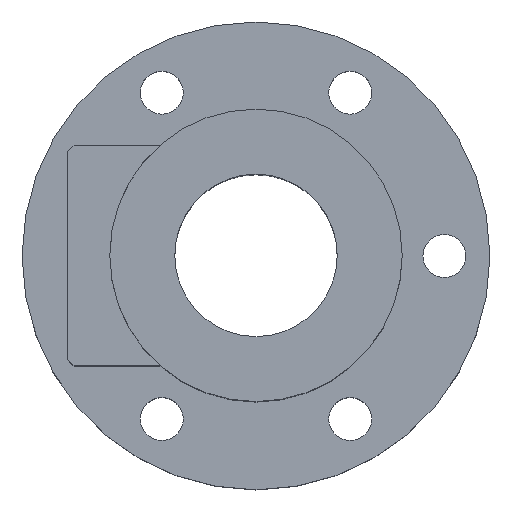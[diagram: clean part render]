
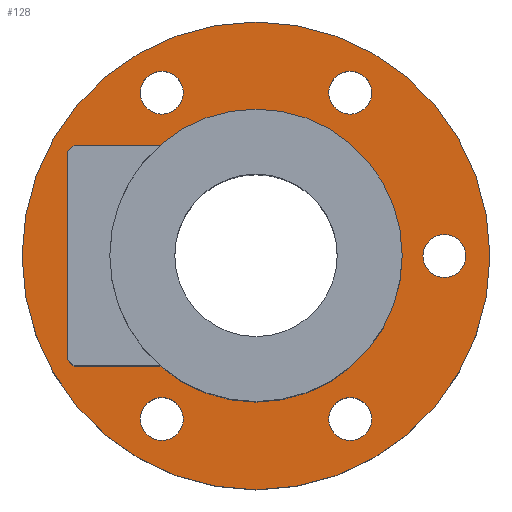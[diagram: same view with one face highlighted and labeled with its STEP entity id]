
A CAD part, top view. The second image highlights one B-rep face of the part: STEP entity #128.
In plain terms, the highlighted planar face has unit normal (0, 0, 1).
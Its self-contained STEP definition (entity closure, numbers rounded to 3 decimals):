
#97=PLANE('',#515);
#112=FACE_OUTER_BOUND('',#251,.T.);
#128=ADVANCED_FACE('',(#203,#204,#205,#112,#206,#207,#208),#97,.T.);
#203=FACE_BOUND('',#248,.T.);
#204=FACE_BOUND('',#249,.T.);
#205=FACE_BOUND('',#250,.T.);
#206=FACE_BOUND('',#252,.T.);
#207=FACE_BOUND('',#253,.T.);
#208=FACE_BOUND('',#254,.T.);
#248=EDGE_LOOP('',(#311));
#249=EDGE_LOOP('',(#312));
#250=EDGE_LOOP('',(#313));
#251=EDGE_LOOP('',(#314));
#252=EDGE_LOOP('',(#315));
#253=EDGE_LOOP('',(#316));
#254=EDGE_LOOP('',(#317));
#311=ORIENTED_EDGE('',*,*,#437,.F.);
#312=ORIENTED_EDGE('',*,*,#438,.F.);
#313=ORIENTED_EDGE('',*,*,#432,.F.);
#314=ORIENTED_EDGE('',*,*,#439,.T.);
#315=ORIENTED_EDGE('',*,*,#440,.F.);
#316=ORIENTED_EDGE('',*,*,#441,.F.);
#317=ORIENTED_EDGE('',*,*,#442,.F.);
#394=VERTEX_POINT('',#694);
#399=VERTEX_POINT('',#705);
#400=VERTEX_POINT('',#707);
#401=VERTEX_POINT('',#709);
#402=VERTEX_POINT('',#711);
#403=VERTEX_POINT('',#713);
#404=VERTEX_POINT('',#715);
#432=EDGE_CURVE('',#394,#394,#476,.T.);
#437=EDGE_CURVE('',#399,#399,#479,.T.);
#438=EDGE_CURVE('',#400,#400,#480,.T.);
#439=EDGE_CURVE('',#401,#401,#481,.T.);
#440=EDGE_CURVE('',#402,#402,#482,.T.);
#441=EDGE_CURVE('',#403,#403,#483,.T.);
#442=EDGE_CURVE('',#404,#404,#484,.T.);
#476=CIRCLE('',#505,22.5);
#479=CIRCLE('',#509,3.3);
#480=CIRCLE('',#510,3.3);
#481=CIRCLE('',#511,36.);
#482=CIRCLE('',#512,3.3);
#483=CIRCLE('',#513,3.3);
#484=CIRCLE('',#514,3.3);
#505=AXIS2_PLACEMENT_3D('',#693,#564,#565);
#509=AXIS2_PLACEMENT_3D('',#704,#574,#575);
#510=AXIS2_PLACEMENT_3D('',#706,#576,#577);
#511=AXIS2_PLACEMENT_3D('',#708,#578,#579);
#512=AXIS2_PLACEMENT_3D('',#710,#580,#581);
#513=AXIS2_PLACEMENT_3D('',#712,#582,#583);
#514=AXIS2_PLACEMENT_3D('',#714,#584,#585);
#515=AXIS2_PLACEMENT_3D('',#716,#586,#587);
#564=DIRECTION('',(0.,0.,1.));
#565=DIRECTION('',(1.,0.,0.));
#574=DIRECTION('',(0.,0.,1.));
#575=DIRECTION('',(-0.5,-0.866,0.));
#576=DIRECTION('',(0.,0.,1.));
#577=DIRECTION('',(0.5,0.866,0.));
#578=DIRECTION('',(0.,0.,1.));
#579=DIRECTION('',(1.,0.,0.));
#580=DIRECTION('',(0.,0.,1.));
#581=DIRECTION('',(1.,0.,0.));
#582=DIRECTION('',(0.,0.,1.));
#583=DIRECTION('',(-1.,0.,0.));
#584=DIRECTION('',(0.,0.,1.));
#585=DIRECTION('',(0.5,-0.866,0.));
#586=DIRECTION('',(0.,0.,1.));
#587=DIRECTION('',(1.,0.,0.));
#693=CARTESIAN_POINT('',(0.,0.,16.));
#694=CARTESIAN_POINT('',(22.5,0.,16.));
#704=CARTESIAN_POINT('',(14.5,-25.115,16.));
#705=CARTESIAN_POINT('',(12.85,-27.973,16.));
#706=CARTESIAN_POINT('',(-14.5,25.115,16.));
#707=CARTESIAN_POINT('',(-12.85,27.973,16.));
#708=CARTESIAN_POINT('',(0.,0.,16.));
#709=CARTESIAN_POINT('',(36.,0.,16.));
#710=CARTESIAN_POINT('',(14.5,25.115,16.));
#711=CARTESIAN_POINT('',(17.8,25.115,16.));
#712=CARTESIAN_POINT('',(-14.5,-25.115,16.));
#713=CARTESIAN_POINT('',(-17.8,-25.115,16.));
#714=CARTESIAN_POINT('',(29.,0.,16.));
#715=CARTESIAN_POINT('',(30.65,-2.858,16.));
#716=CARTESIAN_POINT('',(0.,0.,16.));
